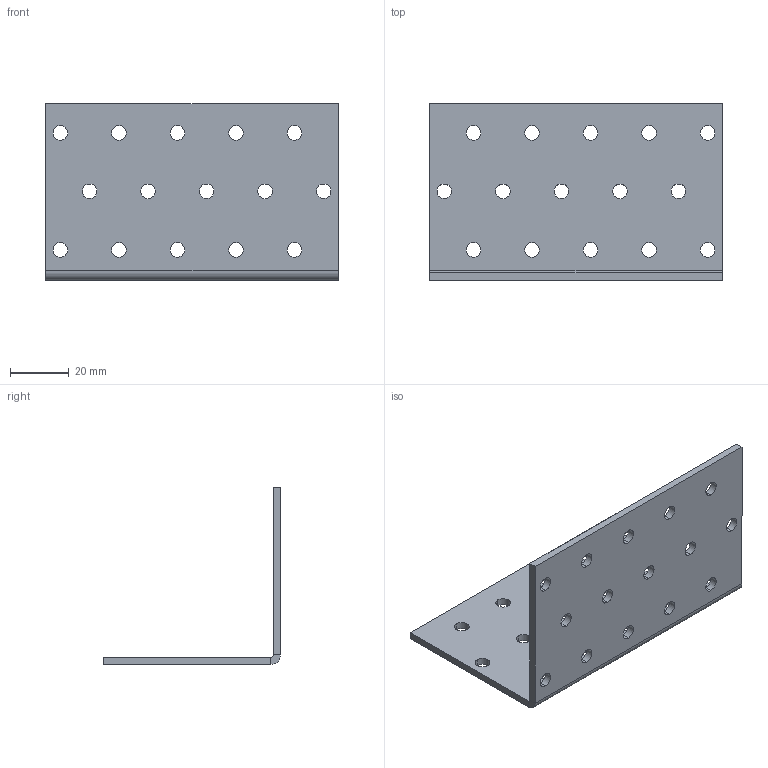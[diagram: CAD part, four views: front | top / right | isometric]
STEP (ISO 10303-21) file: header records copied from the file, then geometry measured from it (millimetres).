
FILE_DESCRIPTION (( 'STEP AP203' ), '1' );
FILE_NAME ('10506.STEP', '2020-04-20T10:50:36', ( '' ), ( '' ), 'SwSTEP 2.0', 'SolidWorks 2013', '' );
FILE_SCHEMA (( 'CONFIG_CONTROL_DESIGN' ));
Length unit declared in the file: millimetre
Products named in the file (1): 10506
Bounding box: 100 x 60.46 x 60.46 mm (x, y, z)
Volume: 27920.1 mm3; surface area: 24602 mm2
Topology: 1 solids, 1 shells, 74 faces, 208 edges, 136 vertices
Faces by surface type: cylinder 62, plane 12
Entity records: 2649 total; most frequent: DIRECTION 482, CARTESIAN_POINT 419, ORIENTED_EDGE 416, EDGE_CURVE 208, AXIS2_PLACEMENT_3D 199, VERTEX_POINT 136, EDGE_LOOP 134, CIRCLE 124
